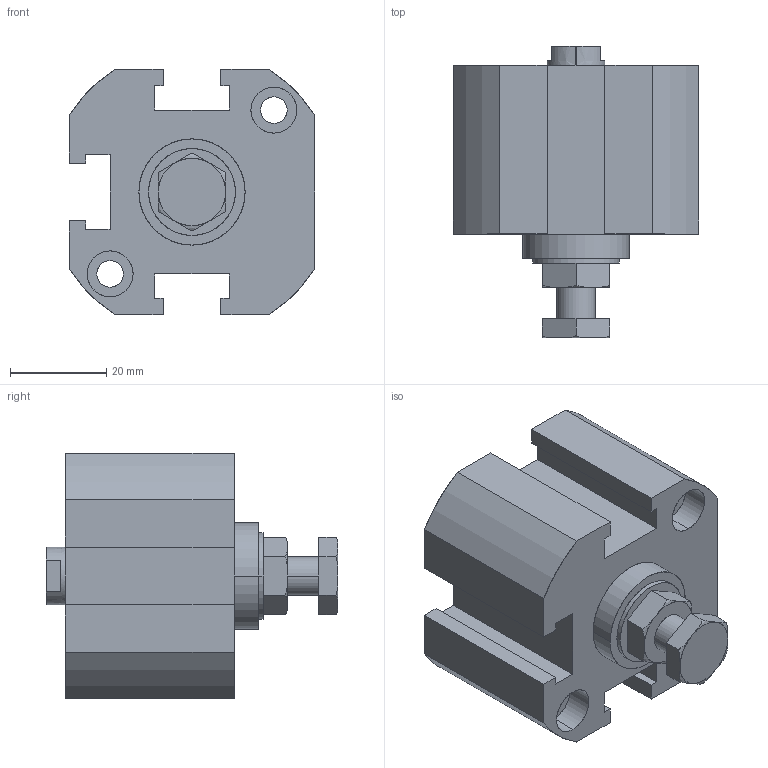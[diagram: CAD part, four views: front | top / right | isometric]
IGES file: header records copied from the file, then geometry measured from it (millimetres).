
Start section: SolidWorks IGES file using analytic representation for surfaces
Global section: file name: C:\Users\Toshiba\Desktop\XCA2-32-10.IGS; native system: SolidWorks 2014; preprocessor: SolidWorks 2014; author: Toshiba; date: 160524.103054; units: millimetre
Bounding box: 51 x 60.5 x 51 mm (x, y, z)
Surface area: 17765 mm2 (no closed solid volume)
Topology: 0 solids, 0 shells, 134 faces, 2162 edges, 2156 vertices
Faces by surface type: bspline 76, revolution 58
